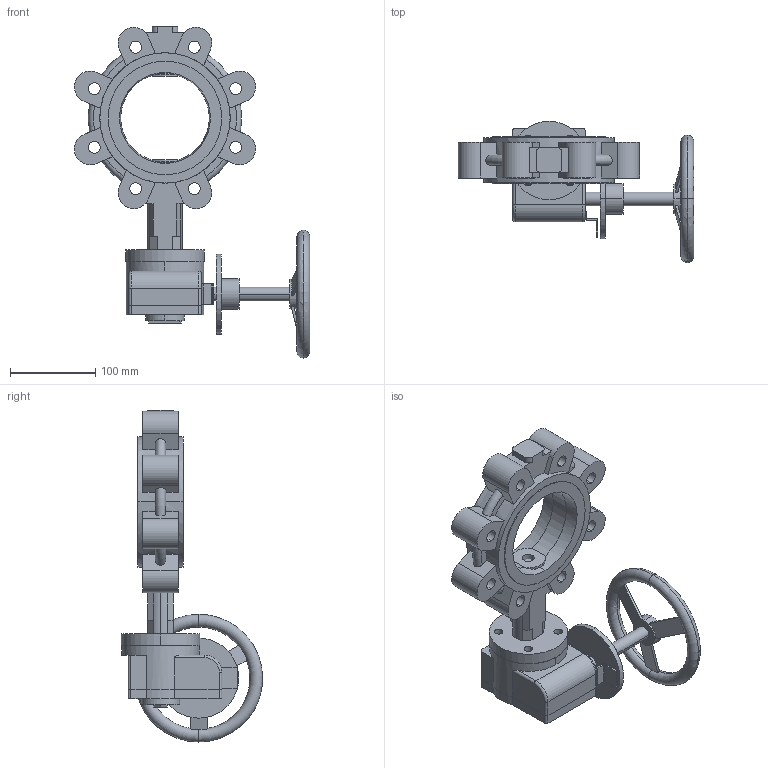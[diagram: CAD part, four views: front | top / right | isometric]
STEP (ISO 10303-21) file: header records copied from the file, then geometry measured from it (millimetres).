
FILE_DESCRIPTION (( 'STEP AP203' ), '1' );
FILE_NAME ('DN100凸耳涡轮头.STEP', '2026-05-21T08:30:05', ( '微软用户' ), ( '微软中国' ), 'SwSTEP 2.0', 'SolidWorks 2024', '' );
FILE_SCHEMA (( 'CONFIG_CONTROL_DESIGN' ));
Length unit declared in the file: millimetre
Products named in the file (4): 4寸涡轮头; DN100凸耳涡轮头; 100凸耳，7.85公斤; 衬胶4寸
Assembly tree (3 placements, depth 2):
  DN100凸耳涡轮头
    100凸耳，7.85公斤
    衬胶4寸
    4寸涡轮头
Bounding box: 276.49 x 166 x 390 mm (x, y, z)
Volume: 1856475.4 mm3; surface area: 355758.1 mm2
Topology: 6 solids, 6 shells, 310 faces, 819 edges, 532 vertices
Faces by surface type: plane 157, cylinder 121, cone 16, torus 16
Entity records: 10992 total; most frequent: CARTESIAN_POINT 2686, DIRECTION 1697, ORIENTED_EDGE 1634, EDGE_CURVE 817, AXIS2_PLACEMENT_3D 638, VERTEX_POINT 532, LINE 421, VECTOR 421
